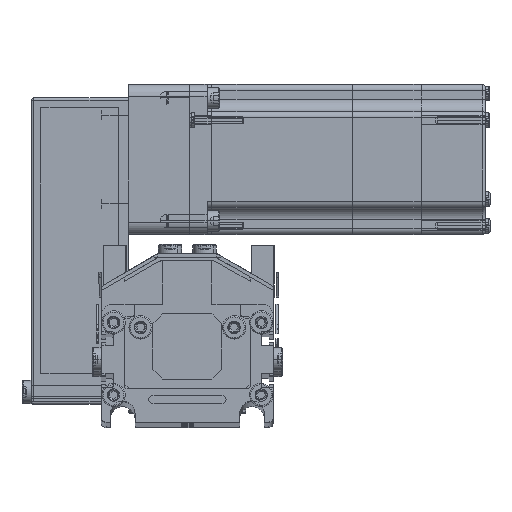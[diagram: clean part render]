
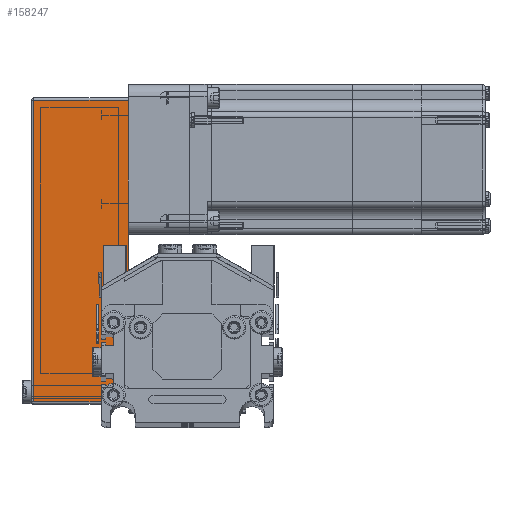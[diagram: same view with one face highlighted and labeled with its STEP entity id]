
A CAD part, top view. The second image highlights one B-rep face of the part: STEP entity #158247.
In plain terms, the highlighted planar face has unit normal (0, 0, 1) as drawn and (0, -1, 0) by its records, which use the part's own axes.
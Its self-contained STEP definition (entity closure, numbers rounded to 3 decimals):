
#87563 = CARTESIAN_POINT ( 'NONE',  ( -50., -25., 0. ) ) ;
#87564 = LINE ( 'NONE', #87563, #87623 ) ;
#87581 = CARTESIAN_POINT ( 'NONE',  ( 73.5, -25., 0. ) ) ;
#87589 = CARTESIAN_POINT ( 'NONE',  ( -49., -25., 0. ) ) ;
#87622 = DIRECTION ( 'NONE',  ( 1., 0., 0. ) ) ;
#87623 = VECTOR ( 'NONE', #87622, 1000. ) ;
#88384 = DIRECTION ( 'NONE',  ( 0., 0., 1. ) ) ;
#88385 = VECTOR ( 'NONE', #88384, 1000. ) ;
#88386 = CARTESIAN_POINT ( 'NONE',  ( 73.5, -25., 39.5 ) ) ;
#88391 = LINE ( 'NONE', #88386, #88385 ) ;
#88470 = DIRECTION ( 'NONE',  ( -1., 0., 0. ) ) ;
#88471 = VECTOR ( 'NONE', #88470, 1000. ) ;
#88474 = CARTESIAN_POINT ( 'NONE',  ( -50., -25., 38.5 ) ) ;
#88475 = LINE ( 'NONE', #88474, #88471 ) ;
#88522 = CARTESIAN_POINT ( 'NONE',  ( 73.5, -25., 38.5 ) ) ;
#88659 = CARTESIAN_POINT ( 'NONE',  ( -49., -25., 38.5 ) ) ;
#88682 = FACE_OUTER_BOUND ( 'NONE', #158163, .T. ) ;
#135291 = DIRECTION ( 'NONE',  ( 0., 1., 0. ) ) ;
#135301 = CARTESIAN_POINT ( 'NONE',  ( -50., -25., 39.5 ) ) ;
#135353 = CARTESIAN_POINT ( 'NONE',  ( -49., -25., 39.5 ) ) ;
#135368 = VECTOR ( 'NONE', #135375, 1000. ) ;
#135375 = DIRECTION ( 'NONE',  ( 0., 0., -1. ) ) ;
#135387 = LINE ( 'NONE', #135353, #135368 ) ;
#135462 = PLANE ( 'NONE',  #135496 ) ;
#135496 = AXIS2_PLACEMENT_3D ( 'NONE', #135301, #135291, #135548 ) ;
#135548 = DIRECTION ( 'NONE',  ( 0., 0., 1. ) ) ;
#157507 = VERTEX_POINT ( 'NONE', #87589 ) ;
#157508 = VERTEX_POINT ( 'NONE', #87581 ) ;
#157514 = EDGE_CURVE ( 'NONE', #157507, #157508, #87564, .T. ) ;
#158136 = EDGE_CURVE ( 'NONE', #157508, #158154, #88391, .T. ) ;
#158154 = VERTEX_POINT ( 'NONE', #88522 ) ;
#158163 = EDGE_LOOP ( 'NONE', ( #158255, #158274, #158250, #158463 ) ) ;
#158166 = EDGE_CURVE ( 'NONE', #158154, #158239, #88475, .T. ) ;
#158239 = VERTEX_POINT ( 'NONE', #88659 ) ;
#158247 = ADVANCED_FACE ( 'NONE', ( #88682 ), #135462, .F. ) ;
#158250 = ORIENTED_EDGE ( 'NONE', *, *, #157514, .T. ) ;
#158255 = ORIENTED_EDGE ( 'NONE', *, *, #158166, .T. ) ;
#158256 = EDGE_CURVE ( 'NONE', #158239, #157507, #135387, .T. ) ;
#158274 = ORIENTED_EDGE ( 'NONE', *, *, #158256, .T. ) ;
#158463 = ORIENTED_EDGE ( 'NONE', *, *, #158136, .T. ) ;
